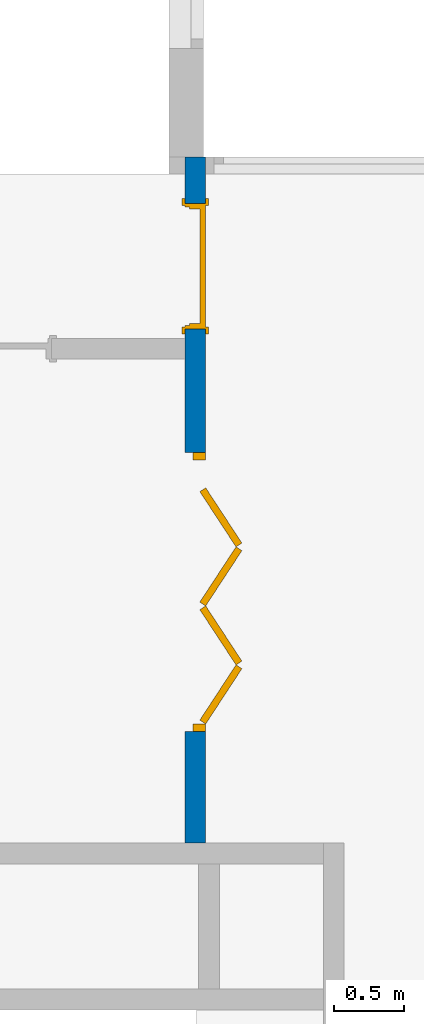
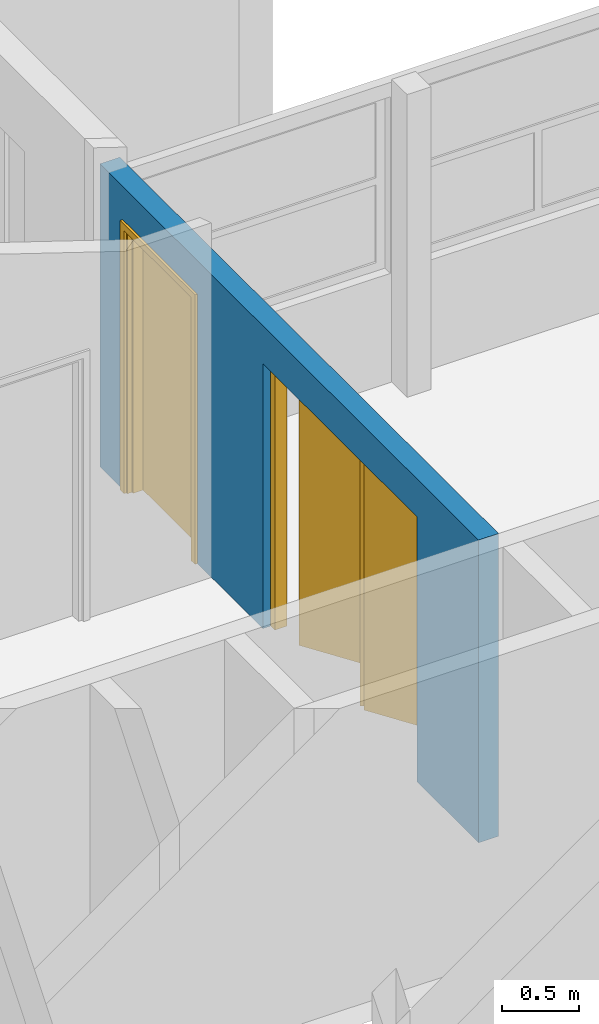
# One storey, part 27 of 48: 2 doors, 1 wall, 2 openings.
"""IFC2X3 building model written with IfcOpenShell, lengths in millimetres."""

from ifc_helpers import new_model, entity, si_unit, converted_unit, derived_unit, money_unit, direction, frame, origin_with_axes, place, context, subcontext, project, spatial, faceted_brep, source, transform, mapped, material, type_object, element, fill, save


model = new_model("IFC2X3")

# Units and contexts
model_context = context("Model", 3, precision=0.01, world=origin_with_axes(), true_north=direction((0.0, 1.0)))
body_context = subcontext(model_context, "Body", "Model", "MODEL_VIEW")
ifc_project = project(units=[si_unit("LENGTHUNIT", "METRE", prefix="MILLI"), si_unit("AREAUNIT", "SQUARE_METRE"), si_unit("VOLUMEUNIT", "CUBIC_METRE"), converted_unit("PLANEANGLEUNIT", "DEGREE", entity("IfcPlaneAngleMeasure", 0.0174532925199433), si_unit("PLANEANGLEUNIT", "RADIAN"), dimensions=[0, 0, 0, 0, 0, 0, 0]), money_unit("USD"), converted_unit("TIMEUNIT", "Year", entity("IfcTimeMeasure", 31557600.0), si_unit("TIMEUNIT", "SECOND"), dimensions=[0, 0, 1, 0, 0, 0, 0]), si_unit("MASSUNIT", "GRAM", prefix="KILO"), si_unit("THERMODYNAMICTEMPERATUREUNIT", "DEGREE_CELSIUS"), si_unit("LUMINOUSINTENSITYUNIT", "LUMEN"), si_unit("ENERGYUNIT", "JOULE", prefix="MEGA"), derived_unit("THERMALCONDUCTANCEUNIT", [(si_unit("POWERUNIT", "WATT"), 1), (si_unit("LENGTHUNIT", "METRE"), -1), (si_unit("THERMODYNAMICTEMPERATUREUNIT", "KELVIN"), -1)]), derived_unit("SPECIFICHEATCAPACITYUNIT", [(si_unit("ENERGYUNIT", "JOULE"), 1), (si_unit("MASSUNIT", "GRAM", prefix="KILO"), -1), (si_unit("THERMODYNAMICTEMPERATUREUNIT", "KELVIN"), -1)]), derived_unit("MASSDENSITYUNIT", [(si_unit("MASSUNIT", "GRAM", prefix="KILO"), 1), (si_unit("VOLUMEUNIT", "CUBIC_METRE"), -1)])], contexts=[model_context])

# Site, building, storey
site_placement = place(None, origin_with_axes())
site = spatial("IfcSite", under=ifc_project, at=site_placement, Name="Site", CompositionType="ELEMENT")
building_placement = place(site_placement, origin_with_axes())
building = spatial("IfcBuilding", under=site, at=building_placement, Name="Building", CompositionType="ELEMENT")
storey_placement = place(building_placement, frame((0.0, 0.0, 3300.0), z_axis=(0.0, 0.0, 1.0), x_axis=(1.0, 0.0, 0.0)))
storey = spatial("IfcBuildingStorey", under=building, at=storey_placement, Name="1 ETG", CompositionType="ELEMENT", Elevation=3300.0)

# Wall, openings, doors
ifc_material = material(Name="GENERIC - INTERNAL FILLER")
wall_type = type_object("IfcWallType", Name="GENERIC - INTERNAL FILLER 150", PredefinedType="NOTDEFINED")
wall_placement = place(storey_placement, frame((63939.99999999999, 16999.87497638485, 0.0), z_axis=(0.0, 0.0, 1.0), x_axis=(0.0, 1.0, 0.0)))
wall = element("IfcWall", 1, at=wall_placement, inside=storey, type_object=wall_type, material=ifc_material, Name="SW - 001", context=body_context, shape_type="Brep", body=[
    faceted_brep([(3687.731976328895, -149.9999999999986, 0.0), (3687.731976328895, -149.9999999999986, 2100.0), (4587.731976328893, -149.9999999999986, 2100.0), (4587.731976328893, -149.9999999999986, 0.0), (4920.014544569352, -149.9999999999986, 0.0), (4920.014544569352, -149.9999999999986, 2400.0), (0.0, -149.9999999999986, 2400.0), (0.0, -149.9999999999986, 0.0), (800.3186504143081, -149.9999999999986, 0.0), (800.3186504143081, -149.9999999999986, 2100.0), (2800.318650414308, -149.9999999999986, 2100.0), (2800.318650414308, -149.9999999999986, 0.0), (3687.731976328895, 0.0, 0.0), (3687.731976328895, 0.0, 2100.0), (4587.731976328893, 0.0, 2100.0), (4587.731976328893, 0.0, 0.0), (4920.014544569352, 0.0, 0.0), (4920.014544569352, 0.0, 2400.0), (0.0, 0.0, 2400.0), (0.0, 0.0, 0.0), (800.3186504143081, 0.0, 0.0), (800.3186504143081, 0.0, 2100.0), (2800.318650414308, 0.0, 2100.0), (2800.318650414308, 0.0, 0.0)], [[[0, 1, 2, 3, 4, 5, 6, 7, 8, 9, 10, 11]], [[1, 0, 12, 13]], [[2, 1, 13, 14]], [[3, 2, 14, 15]], [[3, 15, 16, 4]], [[4, 16, 17, 5]], [[17, 18, 6, 5]], [[18, 19, 7, 6]], [[8, 7, 19, 20]], [[8, 20, 21, 9]], [[9, 21, 22, 10]], [[10, 22, 23, 11]], [[12, 0, 11, 23]], [[13, 12, 23, 22, 21, 20, 19, 18, 17, 16, 15, 14]]]),
])
opening_1_placement = place(wall_placement, frame((1800.318650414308, 0.0, 0.0), z_axis=(0.0, 0.0, 1.0), x_axis=(1.0, 0.0, 0.0)))
opening_1 = element("IfcOpeningElement", 2, at=opening_1_placement, cuts=wall, Name="DOO - 002", context=body_context, shape_type="Brep", body=[
    faceted_brep([(1000.0, 0.9999999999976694, 2100.0), (1000.0, 0.9999999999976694, 0.0), (-1000.0, 0.9999999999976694, 0.0), (-1000.0, 0.9999999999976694, 2100.0), (1000.0, -151.0000000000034, 2100.0), (1000.0, -151.0000000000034, 0.0), (-1000.0, -151.0000000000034, 0.0), (-1000.0, -151.0000000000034, 2100.0)], [[[0, 1, 2, 3]], [[4, 5, 1, 0]], [[5, 6, 2, 1]], [[6, 7, 3, 2]], [[7, 4, 0, 3]], [[6, 5, 4, 7]]]),
])
opening_2_placement = place(wall_placement, frame((4137.731976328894, 0.0, 0.0), z_axis=(0.0, 0.0, 1.0), x_axis=(1.0, 0.0, 0.0)))
opening_2 = element("IfcOpeningElement", 3, at=opening_2_placement, cuts=wall, Name="DOO - 002", context=body_context, shape_type="Brep", body=[
    faceted_brep([(449.9999999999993, -151.0000000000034, 0.0), (449.9999999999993, -151.0000000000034, 2100.0), (-449.9999999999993, -151.0000000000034, 2100.0), (-449.9999999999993, -151.0000000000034, 0.0), (486.9999999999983, -151.0000000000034, 0.0), (486.9999999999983, -151.0000000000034, 2137.0), (-486.9999999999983, -151.0000000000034, 2137.0), (-486.9999999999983, -151.0000000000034, 0.0), (449.9999999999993, -149.9999999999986, 0.0), (-449.9999999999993, -149.9999999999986, 0.0), (-449.9999999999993, 0.0, 0.0), (-449.9999999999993, 0.9999999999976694, 0.0), (449.9999999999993, 0.9999999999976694, 0.0), (449.9999999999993, 0.0, 0.0), (486.9999999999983, -149.9999999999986, 0.0), (486.9999999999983, -149.9999999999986, 2137.0), (-486.9999999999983, -149.9999999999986, 2137.0), (-486.9999999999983, -149.9999999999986, 0.0), (-449.9999999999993, -149.9999999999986, 2100.0), (-449.9999999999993, 0.0, 2100.0), (-486.9999999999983, 0.0, 0.0), (-486.9999999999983, 0.9999999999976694, 0.0), (-486.9999999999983, 0.9999999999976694, 2137.0), (486.9999999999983, 0.9999999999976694, 2137.0), (486.9999999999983, 0.9999999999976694, 0.0), (486.9999999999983, 0.0, 0.0), (449.9999999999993, -149.9999999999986, 2100.0), (449.9999999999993, 0.0, 2100.0), (486.9999999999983, 0.0, 2137.0), (-486.9999999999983, 0.0, 2137.0)], [[[0, 1, 2, 3]], [[2, 1, 0, 4, 5, 6, 7, 3]], [[8, 0, 3, 9, 10, 11, 12, 13]], [[0, 8, 14, 4]], [[14, 15, 5, 4]], [[15, 16, 6, 5]], [[16, 17, 7, 6]], [[9, 3, 7, 17]], [[9, 18, 19, 10]], [[11, 10, 20, 21]], [[12, 11, 21, 22, 23, 24]], [[13, 12, 24, 25]], [[26, 8, 13, 27]], [[8, 26, 18, 9, 17, 16, 15, 14]], [[18, 26, 27, 19]], [[19, 27, 13, 25, 28, 29, 20, 10]], [[20, 29, 22, 21]], [[29, 28, 23, 22]], [[28, 25, 24, 23]]]),
])
door_style_1 = type_object("IfcDoorStyle", Name="Dør", ConstructionType="NOTDEFINED", OperationType="SINGLE_SWING_LEFT", ParameterTakesPrecedence=False, Sizeable=False)
shared_shape = source(origin_with_axes(), body_context, "Body", "Brep", [
    faceted_brep([(450.0, -115.0, 0.0), (450.0, -150.0, 0.0), (425.0, -150.0, 0.0), (425.0, -115.0, 0.0), (450.0, -115.0000000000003, 2100.0), (450.0, -150.0000000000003, 2100.0), (425.0, -150.0000000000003, 2075.0), (425.0, -115.0000000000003, 2075.0)], [[[0, 1, 2, 3]], [[4, 5, 1, 0]], [[1, 5, 6, 2]], [[3, 2, 6, 7]], [[0, 3, 7, 4]], [[7, 6, 5, 4]]]),
    faceted_brep([(-450.0, -115.0000000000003, 2100.0), (-450.0, -150.0000000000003, 2100.0), (-425.0, -150.0000000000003, 2075.0), (-425.0, -115.0000000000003, 2075.0), (-450.0, -115.0, 0.0), (-450.0, -150.0, 0.0), (-425.0, -150.0, 0.0), (-425.0, -115.0, 0.0)], [[[0, 1, 2, 3]], [[4, 5, 1, 0]], [[1, 5, 6, 2]], [[3, 2, 6, 7]], [[0, 3, 7, 4]], [[7, 6, 5, 4]]]),
    faceted_brep([(425.0, -115.0000000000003, 2075.0), (425.0, -150.0000000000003, 2075.0), (-425.0, -150.0000000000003, 2075.0), (-425.0, -115.0000000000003, 2075.0), (450.0, -115.0000000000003, 2100.0), (450.0, -150.0000000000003, 2100.0), (-450.0, -150.0000000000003, 2100.0), (-450.0, -115.0000000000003, 2100.0)], [[[0, 1, 2, 3]], [[4, 5, 1, 0]], [[1, 5, 6, 2]], [[3, 2, 6, 7]], [[0, 3, 7, 4]], [[7, 6, 5, 4]]]),
    faceted_brep([(487.0, -169.0, 0.0), (437.0, -169.0, 0.0), (437.0, -150.0, 0.0), (487.0, -150.0, 0.0), (487.0, -169.0000000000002, 2137.0), (437.0, -169.0000000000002, 2087.0), (437.0, -150.0000000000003, 2087.0), (487.0, -150.0000000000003, 2137.0)], [[[0, 1, 2, 3]], [[0, 4, 5, 1]], [[1, 5, 6, 2]], [[3, 2, 6, 7]], [[4, 0, 3, 7]], [[5, 4, 7, 6]]]),
    faceted_brep([(-487.0, -169.0000000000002, 2137.0), (-437.0, -169.0000000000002, 2087.0), (-437.0, -150.0000000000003, 2087.0), (-487.0, -150.0000000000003, 2137.0), (-487.0, -169.0, 0.0), (-437.0, -169.0, 0.0), (-437.0, -150.0, 0.0), (-487.0, -150.0, 0.0)], [[[0, 1, 2, 3]], [[0, 4, 5, 1]], [[1, 5, 6, 2]], [[3, 2, 6, 7]], [[4, 0, 3, 7]], [[5, 4, 7, 6]]]),
    faceted_brep([(487.0, -169.0000000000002, 2137.0), (437.0, -169.0000000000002, 2087.0), (437.0, -150.0000000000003, 2087.0), (487.0, -150.0000000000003, 2137.0), (-487.0, -169.0000000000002, 2137.0), (-437.0, -169.0000000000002, 2087.0), (-437.0, -150.0000000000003, 2087.0), (-487.0, -150.0000000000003, 2137.0)], [[[0, 1, 2, 3]], [[0, 4, 5, 1]], [[1, 5, 6, 2]], [[3, 2, 6, 7]], [[4, 0, 3, 7]], [[5, 4, 7, 6]]]),
    faceted_brep([(487.0, 19.0, 0.0), (487.0, 0.0, 0.0), (437.0, 0.0, 0.0), (437.0, 19.0, 0.0), (487.0, 18.99999999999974, 2137.0), (487.0, 0.0, 2137.0), (437.0, 0.0, 2087.0), (437.0, 18.99999999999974, 2087.0)], [[[0, 1, 2, 3]], [[4, 5, 1, 0]], [[1, 5, 6, 2]], [[3, 2, 6, 7]], [[0, 3, 7, 4]], [[7, 6, 5, 4]]]),
    faceted_brep([(-487.0, 18.99999999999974, 2137.0), (-487.0, 0.0, 2137.0), (-437.0, 0.0, 2087.0), (-437.0, 18.99999999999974, 2087.0), (-487.0, 19.0, 0.0), (-487.0, 0.0, 0.0), (-437.0, 0.0, 0.0), (-437.0, 19.0, 0.0)], [[[0, 1, 2, 3]], [[4, 5, 1, 0]], [[1, 5, 6, 2]], [[3, 2, 6, 7]], [[0, 3, 7, 4]], [[7, 6, 5, 4]]]),
    faceted_brep([(487.0, 18.99999999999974, 2137.0), (487.0, 0.0, 2137.0), (437.0, 0.0, 2087.0), (437.0, 18.99999999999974, 2087.0), (-487.0, 18.99999999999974, 2137.0), (-487.0, 0.0, 2137.0), (-437.0, 0.0, 2087.0), (-437.0, 18.99999999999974, 2087.0)], [[[0, 1, 2, 3]], [[4, 5, 1, 0]], [[1, 5, 6, 2]], [[3, 2, 6, 7]], [[0, 3, 7, 4]], [[7, 6, 5, 4]]]),
    faceted_brep([(450.0, 0.0, 0.0), (450.0, -115.0, 0.0), (410.0000000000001, -115.0, 0.0), (410.0000000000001, 0.0, 0.0), (450.0, 0.0, 2060.0), (450.0, -115.0, 2060.0), (410.0000000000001, -115.0, 2060.0), (410.0000000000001, 0.0, 2060.0)], [[[0, 1, 2, 3]], [[4, 5, 1, 0]], [[1, 5, 6, 2]], [[3, 2, 6, 7]], [[0, 3, 7, 4]], [[7, 6, 5, 4]]]),
    faceted_brep([(-450.0, 0.0, 0.0), (-450.0, -115.0, 0.0), (-450.0, -115.0, 2060.0), (-450.0, 0.0, 2060.0), (-410.0000000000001, 0.0, 0.0), (-410.0000000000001, -115.0, 0.0), (-410.0000000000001, -115.0, 2060.0), (-410.0000000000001, 0.0, 2060.0)], [[[0, 1, 2, 3]], [[4, 5, 1, 0]], [[1, 5, 6, 2]], [[3, 2, 6, 7]], [[0, 3, 7, 4]], [[7, 6, 5, 4]]]),
    faceted_brep([(450.0, 0.0, 2100.0), (450.0, -115.0, 2100.0), (450.0, -115.0, 2060.0), (450.0, 0.0, 2060.0), (-450.0, 0.0, 2100.0), (-450.0, -115.0, 2100.0), (-450.0, -115.0, 2060.0), (-410.0000000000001, -115.0, 2060.0), (410.0000000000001, -115.0, 2060.0), (410.0000000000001, 0.0, 2060.0), (-410.0000000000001, 0.0, 2060.0), (-450.0, 0.0, 2060.0)], [[[0, 1, 2, 3]], [[4, 5, 1, 0]], [[1, 5, 6, 7, 8, 2]], [[3, 2, 8, 9]], [[0, 3, 9, 10, 11, 4]], [[11, 6, 5, 4]], [[10, 7, 6, 11]], [[9, 8, 7, 10]]]),
    faceted_brep([(-409.9999999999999, 0.0, 0.0), (410.0000000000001, 0.0, 0.0), (410.0000000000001, -40.0, 0.0), (-409.9999999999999, -40.0, 0.0), (-409.9999999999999, 0.0, 2060.0), (410.0000000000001, 0.0, 2060.0), (410.0000000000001, -40.00000000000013, 2060.0), (-409.9999999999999, -40.00000000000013, 2060.0)], [[[0, 1, 2, 3]], [[0, 4, 5, 1]], [[1, 5, 6, 2]], [[3, 2, 6, 7]], [[4, 0, 3, 7]], [[5, 4, 7, 6]]]),
])
door_1_placement = place(opening_2_placement, frame((449.9999999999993, 0.0, 0.0), z_axis=(0.0, 0.0, 1.0), x_axis=(-1.0, 0.0, 0.0)))
door_1 = element("IfcDoor", 4, at=door_1_placement, inside=storey, type_object=door_style_1, Name="DOO - 002", ObjectType="DOOR", OverallHeight=2100.0, OverallWidth=900.0, context=body_context, shape_type="MappedRepresentation", body=[
    mapped(shared_shape, transform((449.9999999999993, 149.9999999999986, 0.0))),
])
fill(opening_2, door_1)
door_style_2 = type_object("IfcDoorStyle", Name="Foldedør multipanel", ConstructionType="NOTDEFINED", OperationType="FOLDING_TO_LEFT", ParameterTakesPrecedence=False, Sizeable=False)
door_2_placement = place(opening_1_placement, frame((1000.0, 0.0, 0.0), z_axis=(0.0, 0.0, 1.0), x_axis=(-1.0, 0.0, 0.0)))
door_2 = element("IfcDoor", 5, at=door_2_placement, inside=storey, type_object=door_style_2, Name="DOO - 002", ObjectType="DOOR", OverallHeight=2100.0, OverallWidth=2000.0, context=body_context, shape_type="Brep", body=[
    faceted_brep([(2000.0, 149.9999999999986, 0.0), (2000.0, 57.99999999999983, 0.0), (1946.999999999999, 57.99999999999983, 0.0), (1946.999999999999, 149.9999999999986, 0.0), (2000.0, 149.9999999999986, 2037.0), (2000.0, 57.99999999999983, 2037.0), (1946.999999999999, 57.99999999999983, 2037.0), (1946.999999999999, 149.9999999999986, 2037.0)], [[[0, 1, 2, 3]], [[4, 5, 1, 0]], [[1, 5, 6, 2]], [[3, 2, 6, 7]], [[0, 3, 7, 4]], [[7, 6, 5, 4]]]),
    faceted_brep([(0.0, 149.9999999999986, 0.0), (0.0, 57.99999999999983, 0.0), (0.0, 57.99999999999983, 2037.0), (0.0, 149.9999999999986, 2037.0), (53.00000000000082, 149.9999999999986, 0.0), (53.00000000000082, 57.99999999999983, 0.0), (53.00000000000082, 57.99999999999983, 2037.0), (53.00000000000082, 149.9999999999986, 2037.0)], [[[0, 1, 2, 3]], [[4, 5, 1, 0]], [[1, 5, 6, 2]], [[3, 2, 6, 7]], [[0, 3, 7, 4]], [[7, 6, 5, 4]]]),
    faceted_brep([(2000.0, 149.9999999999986, 2100.0), (2000.0, 57.99999999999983, 2100.0), (2000.0, 57.99999999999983, 2037.0), (2000.0, 149.9999999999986, 2037.0), (0.0, 149.9999999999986, 2100.0), (0.0, 57.99999999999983, 2100.0), (0.0, 57.99999999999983, 2037.0), (53.00000000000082, 57.99999999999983, 2037.0), (1946.999999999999, 57.99999999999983, 2037.0), (1946.999999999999, 149.9999999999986, 2037.0), (53.00000000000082, 149.9999999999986, 2037.0), (0.0, 149.9999999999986, 2037.0)], [[[0, 1, 2, 3]], [[4, 5, 1, 0]], [[1, 5, 6, 7, 8, 2]], [[3, 2, 8, 9]], [[0, 3, 9, 10, 11, 4]], [[11, 6, 5, 4]], [[10, 7, 6, 11]], [[9, 8, 7, 10]]]),
    faceted_brep([(1946.999999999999, 149.9999999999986, 0.0), (1919.605287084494, 108.1726201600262, 0.0), (1523.499999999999, 367.6005514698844, 0.0), (1550.894712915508, 409.4279313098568, 0.0), (1946.999999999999, 149.9999999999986, 2037.0), (1919.605287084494, 108.1726201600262, 2037.0), (1523.499999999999, 367.6005514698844, 2037.0), (1550.894712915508, 409.4279313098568, 2037.0)], [[[0, 1, 2, 3]], [[4, 5, 1, 0]], [[1, 5, 6, 2]], [[3, 2, 6, 7]], [[0, 3, 7, 4]], [[7, 6, 5, 4]]]),
    faceted_brep([(1496.105287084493, 409.4279313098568, 0.0), (1523.499999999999, 367.6005514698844, 0.0), (1127.394712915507, 108.1726201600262, 0.0), (1100.000000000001, 149.9999999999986, 0.0), (1496.105287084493, 409.4279313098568, 2037.0), (1523.499999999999, 367.6005514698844, 2037.0), (1127.394712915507, 108.1726201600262, 2037.0), (1100.000000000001, 149.9999999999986, 2037.0)], [[[0, 1, 2, 3]], [[4, 5, 1, 0]], [[1, 5, 6, 2]], [[3, 2, 6, 7]], [[0, 3, 7, 4]], [[7, 6, 5, 4]]]),
    faceted_brep([(1100.000000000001, 149.9999999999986, 0.0), (1072.605287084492, 108.1726201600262, 0.0), (676.5000000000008, 367.6005514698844, 0.0), (703.8947129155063, 409.4279313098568, 0.0), (1100.000000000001, 149.9999999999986, 2037.0), (1072.605287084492, 108.1726201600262, 2037.0), (676.5000000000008, 367.6005514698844, 2037.0), (703.8947129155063, 409.4279313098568, 2037.0)], [[[0, 1, 2, 3]], [[4, 5, 1, 0]], [[1, 5, 6, 2]], [[3, 2, 6, 7]], [[0, 3, 7, 4]], [[7, 6, 5, 4]]]),
    faceted_brep([(649.1052870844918, 409.4279313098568, 0.0), (676.5000000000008, 367.6005514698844, 0.0), (280.3947129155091, 108.1726201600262, 0.0), (253.0000000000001, 149.9999999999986, 0.0), (649.1052870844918, 409.4279313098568, 2037.0), (676.5000000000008, 367.6005514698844, 2037.0), (280.3947129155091, 108.1726201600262, 2037.0), (253.0000000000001, 149.9999999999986, 2037.0)], [[[0, 1, 2, 3]], [[4, 5, 1, 0]], [[1, 5, 6, 2]], [[3, 2, 6, 7]], [[0, 3, 7, 4]], [[7, 6, 5, 4]]]),
])
fill(opening_1, door_2)

save(model, "model.ifc")
